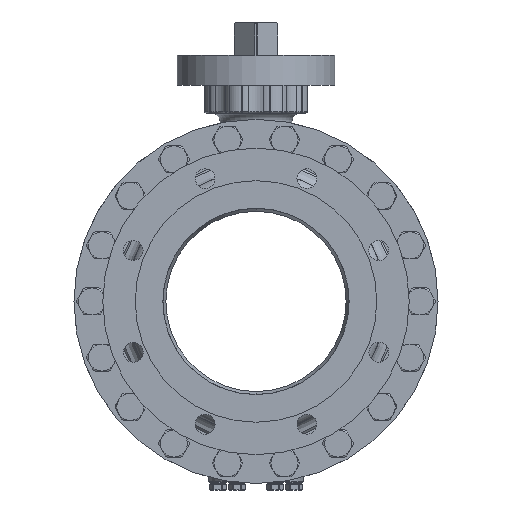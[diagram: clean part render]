
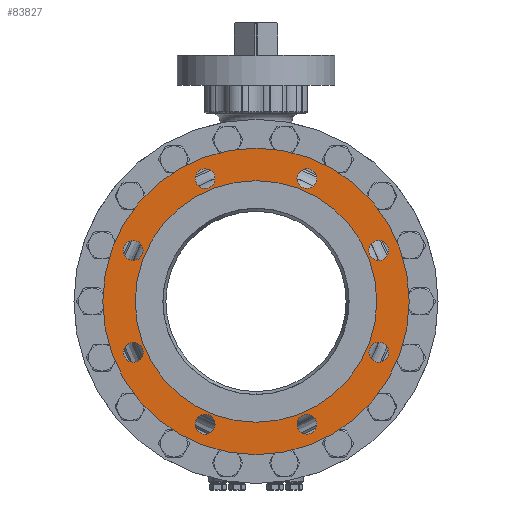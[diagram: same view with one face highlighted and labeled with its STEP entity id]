
A CAD part, left-side view. The second image highlights one B-rep face of the part: STEP entity #83827.
In plain terms, the highlighted planar face has unit normal (-1, 0, 0).
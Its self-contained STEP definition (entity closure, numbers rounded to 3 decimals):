
#10204=CARTESIAN_POINT('',(-225.5,0.,0.));
#10205=DIRECTION('',(-1.,0.,0.));
#10206=DIRECTION('',(0.,0.,1.));
#10207=AXIS2_PLACEMENT_3D('',#10204,#10205,#10206);
#10209=CARTESIAN_POINT('',(-225.5,0.,0.));
#10210=DIRECTION('',(-1.,0.,0.));
#10211=DIRECTION('',(0.,0.,-1.));
#10212=AXIS2_PLACEMENT_3D('',#10209,#10210,#10211);
#10214=CARTESIAN_POINT('',(-225.5,-56.446,136.272));
#10215=DIRECTION('',(-1.,0.,0.));
#10216=DIRECTION('',(0.,-1.,0.));
#10217=AXIS2_PLACEMENT_3D('',#10214,#10215,#10216);
#10219=CARTESIAN_POINT('',(-225.5,-56.446,136.272));
#10220=DIRECTION('',(-1.,0.,0.));
#10221=DIRECTION('',(0.,1.,0.));
#10222=AXIS2_PLACEMENT_3D('',#10219,#10220,#10221);
#10224=CARTESIAN_POINT('',(-225.5,56.446,136.272));
#10225=DIRECTION('',(-1.,0.,0.));
#10226=DIRECTION('',(0.,-0.707,0.707));
#10227=AXIS2_PLACEMENT_3D('',#10224,#10225,#10226);
#10229=CARTESIAN_POINT('',(-225.5,56.446,136.272));
#10230=DIRECTION('',(-1.,0.,0.));
#10231=DIRECTION('',(0.,0.707,-0.707));
#10232=AXIS2_PLACEMENT_3D('',#10229,#10230,#10231);
#10234=CARTESIAN_POINT('',(-225.5,136.272,56.446));
#10235=DIRECTION('',(-1.,0.,0.));
#10236=DIRECTION('',(0.,0.,1.));
#10237=AXIS2_PLACEMENT_3D('',#10234,#10235,#10236);
#10239=CARTESIAN_POINT('',(-225.5,136.272,56.446));
#10240=DIRECTION('',(-1.,0.,0.));
#10241=DIRECTION('',(0.,0.,-1.));
#10242=AXIS2_PLACEMENT_3D('',#10239,#10240,#10241);
#10244=CARTESIAN_POINT('',(-225.5,136.272,-56.446));
#10245=DIRECTION('',(-1.,0.,0.));
#10246=DIRECTION('',(0.,0.707,0.707));
#10247=AXIS2_PLACEMENT_3D('',#10244,#10245,#10246);
#10249=CARTESIAN_POINT('',(-225.5,136.272,-56.446));
#10250=DIRECTION('',(-1.,0.,0.));
#10251=DIRECTION('',(0.,-0.707,-0.707));
#10252=AXIS2_PLACEMENT_3D('',#10249,#10250,#10251);
#10254=CARTESIAN_POINT('',(-225.5,56.446,-136.272));
#10255=DIRECTION('',(-1.,0.,0.));
#10256=DIRECTION('',(0.,1.,0.));
#10257=AXIS2_PLACEMENT_3D('',#10254,#10255,#10256);
#10259=CARTESIAN_POINT('',(-225.5,56.446,-136.272));
#10260=DIRECTION('',(-1.,0.,0.));
#10261=DIRECTION('',(0.,-1.,0.));
#10262=AXIS2_PLACEMENT_3D('',#10259,#10260,#10261);
#10264=CARTESIAN_POINT('',(-225.5,-56.446,-136.272));
#10265=DIRECTION('',(-1.,0.,0.));
#10266=DIRECTION('',(0.,0.707,-0.707));
#10267=AXIS2_PLACEMENT_3D('',#10264,#10265,#10266);
#10269=CARTESIAN_POINT('',(-225.5,-56.446,-136.272));
#10270=DIRECTION('',(-1.,0.,0.));
#10271=DIRECTION('',(0.,-0.707,0.707));
#10272=AXIS2_PLACEMENT_3D('',#10269,#10270,#10271);
#10274=CARTESIAN_POINT('',(-225.5,-136.272,-56.446));
#10275=DIRECTION('',(-1.,0.,0.));
#10276=DIRECTION('',(0.,0.,-1.));
#10277=AXIS2_PLACEMENT_3D('',#10274,#10275,#10276);
#10279=CARTESIAN_POINT('',(-225.5,-136.272,-56.446));
#10280=DIRECTION('',(-1.,0.,0.));
#10281=DIRECTION('',(0.,0.,1.));
#10282=AXIS2_PLACEMENT_3D('',#10279,#10280,#10281);
#10284=CARTESIAN_POINT('',(-225.5,-136.272,56.446));
#10285=DIRECTION('',(-1.,0.,0.));
#10286=DIRECTION('',(0.,-0.707,-0.707));
#10287=AXIS2_PLACEMENT_3D('',#10284,#10285,#10286);
#10289=CARTESIAN_POINT('',(-225.5,-136.272,56.446));
#10290=DIRECTION('',(-1.,0.,0.));
#10291=DIRECTION('',(0.,0.707,0.707));
#10292=AXIS2_PLACEMENT_3D('',#10289,#10290,#10291);
#10298=CARTESIAN_POINT('',(-225.5,0.,0.));
#10299=DIRECTION('',(-1.,0.,0.));
#10300=DIRECTION('',(0.,0.,1.));
#10301=AXIS2_PLACEMENT_3D('',#10298,#10299,#10300);
#10327=CARTESIAN_POINT('',(-225.5,0.,0.));
#10328=DIRECTION('',(1.,0.,0.));
#10329=DIRECTION('',(0.,0.,1.));
#10330=AXIS2_PLACEMENT_3D('',#10327,#10328,#10329);
#59677=CARTESIAN_POINT('',(-225.5,0.,134.));
#59678=CARTESIAN_POINT('',(-225.5,0.,-134.));
#59679=VERTEX_POINT('',#59677);
#59680=VERTEX_POINT('',#59678);
#59681=CARTESIAN_POINT('',(-225.5,0.,170.));
#59682=CARTESIAN_POINT('',(-225.5,0.,-170.));
#59683=VERTEX_POINT('',#59681);
#59684=VERTEX_POINT('',#59682);
#59697=CARTESIAN_POINT('',(-225.5,-67.446,136.272));
#59698=CARTESIAN_POINT('',(-225.5,-45.446,136.272));
#59699=VERTEX_POINT('',#59697);
#59700=VERTEX_POINT('',#59698);
#59705=CARTESIAN_POINT('',(-225.5,48.668,144.05));
#59706=CARTESIAN_POINT('',(-225.5,64.224,128.494));
#59707=VERTEX_POINT('',#59705);
#59708=VERTEX_POINT('',#59706);
#59713=CARTESIAN_POINT('',(-225.5,136.272,67.446));
#59714=CARTESIAN_POINT('',(-225.5,136.272,45.446));
#59715=VERTEX_POINT('',#59713);
#59716=VERTEX_POINT('',#59714);
#59721=CARTESIAN_POINT('',(-225.5,144.05,-48.668));
#59722=CARTESIAN_POINT('',(-225.5,128.494,-64.224));
#59723=VERTEX_POINT('',#59721);
#59724=VERTEX_POINT('',#59722);
#59729=CARTESIAN_POINT('',(-225.5,67.446,-136.272));
#59730=CARTESIAN_POINT('',(-225.5,45.446,-136.272));
#59731=VERTEX_POINT('',#59729);
#59732=VERTEX_POINT('',#59730);
#59737=CARTESIAN_POINT('',(-225.5,-48.668,-144.05));
#59738=CARTESIAN_POINT('',(-225.5,-64.224,-128.494));
#59739=VERTEX_POINT('',#59737);
#59740=VERTEX_POINT('',#59738);
#59745=CARTESIAN_POINT('',(-225.5,-136.272,-67.446));
#59746=CARTESIAN_POINT('',(-225.5,-136.272,-45.446));
#59747=VERTEX_POINT('',#59745);
#59748=VERTEX_POINT('',#59746);
#59753=CARTESIAN_POINT('',(-225.5,-144.05,48.668));
#59754=CARTESIAN_POINT('',(-225.5,-128.494,64.224));
#59755=VERTEX_POINT('',#59753);
#59756=VERTEX_POINT('',#59754);
#83763=CARTESIAN_POINT('',(-225.5,0.,0.));
#83764=DIRECTION('',(1.,0.,0.));
#83765=DIRECTION('',(0.,0.,1.));
#83766=AXIS2_PLACEMENT_3D('',#83763,#83764,#83765);
#83767=PLANE('',#83766);
#83769=ORIENTED_EDGE('',*,*,#83768,.F.);
#83770=ORIENTED_EDGE('',*,*,#83753,.F.);
#83771=EDGE_LOOP('',(#83769,#83770));
#83772=FACE_OUTER_BOUND('',#83771,.F.);
#83774=ORIENTED_EDGE('',*,*,#83773,.T.);
#83776=ORIENTED_EDGE('',*,*,#83775,.F.);
#83777=EDGE_LOOP('',(#83774,#83776));
#83778=FACE_BOUND('',#83777,.F.);
#83780=ORIENTED_EDGE('',*,*,#83779,.T.);
#83782=ORIENTED_EDGE('',*,*,#83781,.T.);
#83783=EDGE_LOOP('',(#83780,#83782));
#83784=FACE_BOUND('',#83783,.F.);
#83786=ORIENTED_EDGE('',*,*,#83785,.T.);
#83788=ORIENTED_EDGE('',*,*,#83787,.T.);
#83789=EDGE_LOOP('',(#83786,#83788));
#83790=FACE_BOUND('',#83789,.F.);
#83792=ORIENTED_EDGE('',*,*,#83791,.T.);
#83794=ORIENTED_EDGE('',*,*,#83793,.T.);
#83795=EDGE_LOOP('',(#83792,#83794));
#83796=FACE_BOUND('',#83795,.F.);
#83798=ORIENTED_EDGE('',*,*,#83797,.T.);
#83800=ORIENTED_EDGE('',*,*,#83799,.T.);
#83801=EDGE_LOOP('',(#83798,#83800));
#83802=FACE_BOUND('',#83801,.F.);
#83804=ORIENTED_EDGE('',*,*,#83803,.T.);
#83806=ORIENTED_EDGE('',*,*,#83805,.T.);
#83807=EDGE_LOOP('',(#83804,#83806));
#83808=FACE_BOUND('',#83807,.F.);
#83810=ORIENTED_EDGE('',*,*,#83809,.T.);
#83812=ORIENTED_EDGE('',*,*,#83811,.T.);
#83813=EDGE_LOOP('',(#83810,#83812));
#83814=FACE_BOUND('',#83813,.F.);
#83816=ORIENTED_EDGE('',*,*,#83815,.T.);
#83818=ORIENTED_EDGE('',*,*,#83817,.T.);
#83819=EDGE_LOOP('',(#83816,#83818));
#83820=FACE_BOUND('',#83819,.F.);
#83822=ORIENTED_EDGE('',*,*,#83821,.T.);
#83824=ORIENTED_EDGE('',*,*,#83823,.T.);
#83825=EDGE_LOOP('',(#83822,#83824));
#83826=FACE_BOUND('',#83825,.F.);
#83827=ADVANCED_FACE('',(#83772,#83778,#83784,#83790,#83796,#83802,#83808,
#83814,#83820,#83826),#83767,.F.);
#10208=CIRCLE('',#10207,170.);
#10213=CIRCLE('',#10212,170.);
#10218=CIRCLE('',#10217,11.);
#10223=CIRCLE('',#10222,11.);
#10228=CIRCLE('',#10227,11.);
#10233=CIRCLE('',#10232,11.);
#10238=CIRCLE('',#10237,11.);
#10243=CIRCLE('',#10242,11.);
#10248=CIRCLE('',#10247,11.);
#10253=CIRCLE('',#10252,11.);
#10258=CIRCLE('',#10257,11.);
#10263=CIRCLE('',#10262,11.);
#10268=CIRCLE('',#10267,11.);
#10273=CIRCLE('',#10272,11.);
#10278=CIRCLE('',#10277,11.);
#10283=CIRCLE('',#10282,11.);
#10288=CIRCLE('',#10287,11.);
#10293=CIRCLE('',#10292,11.);
#10302=CIRCLE('',#10301,134.);
#10331=CIRCLE('',#10330,134.);
#83753=EDGE_CURVE('',#59684,#59683,#10213,.T.);
#83768=EDGE_CURVE('',#59683,#59684,#10208,.T.);
#83773=EDGE_CURVE('',#59679,#59680,#10302,.T.);
#83775=EDGE_CURVE('',#59679,#59680,#10331,.T.);
#83779=EDGE_CURVE('',#59699,#59700,#10218,.T.);
#83781=EDGE_CURVE('',#59700,#59699,#10223,.T.);
#83785=EDGE_CURVE('',#59707,#59708,#10228,.T.);
#83787=EDGE_CURVE('',#59708,#59707,#10233,.T.);
#83791=EDGE_CURVE('',#59715,#59716,#10238,.T.);
#83793=EDGE_CURVE('',#59716,#59715,#10243,.T.);
#83797=EDGE_CURVE('',#59723,#59724,#10248,.T.);
#83799=EDGE_CURVE('',#59724,#59723,#10253,.T.);
#83803=EDGE_CURVE('',#59731,#59732,#10258,.T.);
#83805=EDGE_CURVE('',#59732,#59731,#10263,.T.);
#83809=EDGE_CURVE('',#59739,#59740,#10268,.T.);
#83811=EDGE_CURVE('',#59740,#59739,#10273,.T.);
#83815=EDGE_CURVE('',#59747,#59748,#10278,.T.);
#83817=EDGE_CURVE('',#59748,#59747,#10283,.T.);
#83821=EDGE_CURVE('',#59755,#59756,#10288,.T.);
#83823=EDGE_CURVE('',#59756,#59755,#10293,.T.);
